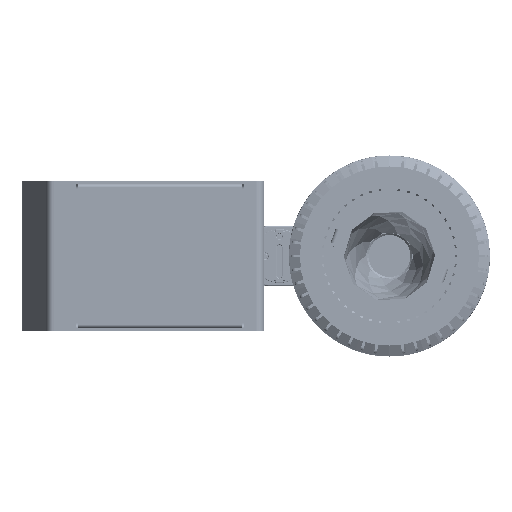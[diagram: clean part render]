
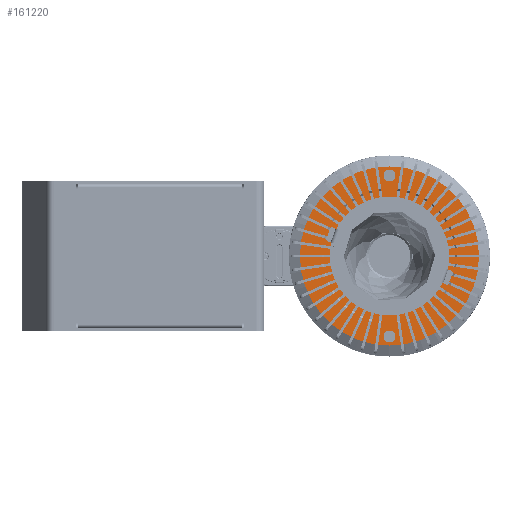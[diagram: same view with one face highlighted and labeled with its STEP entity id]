
A CAD part, front view. The second image highlights one B-rep face of the part: STEP entity #161220.
In plain terms, the highlighted planar face has unit normal (0, -1, 0).
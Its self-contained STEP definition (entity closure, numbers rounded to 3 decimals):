
#1532 = DIRECTION ( 'NONE',  ( 1., 0., 0. ) ) ;
#2708 = CARTESIAN_POINT ( 'NONE',  ( 49., 0., 0. ) ) ;
#4450 = AXIS2_PLACEMENT_3D ( 'NONE', #175571, #8229, #152961 ) ;
#5252 = VERTEX_POINT ( 'NONE', #167706 ) ;
#8229 = DIRECTION ( 'NONE',  ( 0., -1., 0. ) ) ;
#12070 = CARTESIAN_POINT ( 'NONE',  ( -12.887, 0., -31.01 ) ) ;
#12120 = EDGE_CURVE ( 'NONE', #155494, #32071, #144242, .T. ) ;
#13002 = CARTESIAN_POINT ( 'NONE',  ( 44., 0., -3.25 ) ) ;
#13122 = CARTESIAN_POINT ( 'NONE',  ( -44., 0., 0. ) ) ;
#13358 = ORIENTED_EDGE ( 'NONE', *, *, #227150, .T. ) ;
#14416 = CARTESIAN_POINT ( 'NONE',  ( -11.287, 0., -31.01 ) ) ;
#14668 = CARTESIAN_POINT ( 'NONE',  ( -44., 0., 0. ) ) ;
#16281 = EDGE_CURVE ( 'NONE', #140374, #145262, #18763, .T. ) ;
#18763 = CIRCLE ( 'NONE', #190466, 1.6 ) ;
#20504 = ORIENTED_EDGE ( 'NONE', *, *, #116956, .T. ) ;
#20635 = FACE_OUTER_BOUND ( 'NONE', #227642, .T. ) ;
#22896 = DIRECTION ( 'NONE',  ( 1., 0., 0. ) ) ;
#23021 = DIRECTION ( 'NONE',  ( 0., -1., 0. ) ) ;
#23210 = EDGE_LOOP ( 'NONE', ( #102506, #117965 ) ) ;
#29758 = EDGE_CURVE ( 'NONE', #190166, #177890, #153819, .T. ) ;
#32071 = VERTEX_POINT ( 'NONE', #116632 ) ;
#32688 = EDGE_LOOP ( 'NONE', ( #45274, #149301 ) ) ;
#34199 = FACE_BOUND ( 'NONE', #32688, .T. ) ;
#34359 = CIRCLE ( 'NONE', #95372, 1.6 ) ;
#35413 = FACE_BOUND ( 'NONE', #95053, .T. ) ;
#39825 = CARTESIAN_POINT ( 'NONE',  ( 0., 0., 0. ) ) ;
#39918 = CARTESIAN_POINT ( 'NONE',  ( 12.887, 0., 31.01 ) ) ;
#41060 = EDGE_LOOP ( 'NONE', ( #217286, #216143 ) ) ;
#41419 = CARTESIAN_POINT ( 'NONE',  ( 44., 0., 0. ) ) ;
#45274 = ORIENTED_EDGE ( 'NONE', *, *, #211310, .T. ) ;
#50508 = CARTESIAN_POINT ( 'NONE',  ( -9.687, 0., -31.01 ) ) ;
#53884 = AXIS2_PLACEMENT_3D ( 'NONE', #167585, #204665, #94641 ) ;
#55181 = CARTESIAN_POINT ( 'NONE',  ( 44., 0., 3.25 ) ) ;
#61531 = DIRECTION ( 'NONE',  ( 0., 1., 0. ) ) ;
#62513 = ORIENTED_EDGE ( 'NONE', *, *, #104482, .F. ) ;
#67383 = DIRECTION ( 'NONE',  ( 0., 0., 1. ) ) ;
#69385 = CARTESIAN_POINT ( 'NONE',  ( 29., 0., 0. ) ) ;
#69493 = DIRECTION ( 'NONE',  ( 0., -1., 0. ) ) ;
#69904 = EDGE_LOOP ( 'NONE', ( #62513, #119902 ) ) ;
#70133 = ORIENTED_EDGE ( 'NONE', *, *, #151404, .T. ) ;
#70220 = CIRCLE ( 'NONE', #77809, 3.25 ) ;
#75519 = DIRECTION ( 'NONE',  ( 0., -1., 0. ) ) ;
#77809 = AXIS2_PLACEMENT_3D ( 'NONE', #120029, #61531, #157136 ) ;
#80681 = CIRCLE ( 'NONE', #164721, 3.25 ) ;
#80760 = DIRECTION ( 'NONE',  ( 0., 1., 0. ) ) ;
#81281 = VERTEX_POINT ( 'NONE', #13002 ) ;
#81465 = AXIS2_PLACEMENT_3D ( 'NONE', #2708, #221534, #89157 ) ;
#82356 = AXIS2_PLACEMENT_3D ( 'NONE', #142921, #103426, #124916 ) ;
#86120 = DIRECTION ( 'NONE',  ( 0., 0., 1. ) ) ;
#89157 = DIRECTION ( 'NONE',  ( 1., 0., 0. ) ) ;
#94641 = DIRECTION ( 'NONE',  ( 1., 0., 0. ) ) ;
#94861 = DIRECTION ( 'NONE',  ( 1., 0., 0. ) ) ;
#95053 = EDGE_LOOP ( 'NONE', ( #232311, #13358 ) ) ;
#95372 = AXIS2_PLACEMENT_3D ( 'NONE', #14416, #69493, #142440 ) ;
#97197 = DIRECTION ( 'NONE',  ( 0., -1., 0. ) ) ;
#102506 = ORIENTED_EDGE ( 'NONE', *, *, #195522, .F. ) ;
#102556 = EDGE_CURVE ( 'NONE', #169526, #192815, #34359, .T. ) ;
#103426 = DIRECTION ( 'NONE',  ( 0., -1., 0. ) ) ;
#104482 = EDGE_CURVE ( 'NONE', #177890, #190166, #214804, .T. ) ;
#116632 = CARTESIAN_POINT ( 'NONE',  ( -44., 0., -3.25 ) ) ;
#116956 = EDGE_CURVE ( 'NONE', #202541, #5252, #191826, .T. ) ;
#117042 = AXIS2_PLACEMENT_3D ( 'NONE', #41419, #80760, #154940 ) ;
#117346 = AXIS2_PLACEMENT_3D ( 'NONE', #13122, #214101, #86120 ) ;
#117965 = ORIENTED_EDGE ( 'NONE', *, *, #16281, .F. ) ;
#119902 = ORIENTED_EDGE ( 'NONE', *, *, #29758, .F. ) ;
#120029 = CARTESIAN_POINT ( 'NONE',  ( 44., 0., 0. ) ) ;
#124916 = DIRECTION ( 'NONE',  ( 1., 0., 0. ) ) ;
#131017 = AXIS2_PLACEMENT_3D ( 'NONE', #168979, #97197, #94861 ) ;
#134545 = AXIS2_PLACEMENT_3D ( 'NONE', #150848, #75519, #22896 ) ;
#140374 = VERTEX_POINT ( 'NONE', #39918 ) ;
#142440 = DIRECTION ( 'NONE',  ( 1., 0., 0. ) ) ;
#142921 = CARTESIAN_POINT ( 'NONE',  ( 11.287, 0., 31.01 ) ) ;
#144242 = CIRCLE ( 'NONE', #117346, 3.25 ) ;
#145262 = VERTEX_POINT ( 'NONE', #177600 ) ;
#149301 = ORIENTED_EDGE ( 'NONE', *, *, #12120, .T. ) ;
#150848 = CARTESIAN_POINT ( 'NONE',  ( 0., 0., 0. ) ) ;
#151404 = EDGE_CURVE ( 'NONE', #5252, #202541, #179947, .T. ) ;
#152961 = DIRECTION ( 'NONE',  ( 1., 0., 0. ) ) ;
#153819 = CIRCLE ( 'NONE', #131017, 29. ) ;
#154312 = VERTEX_POINT ( 'NONE', #55181 ) ;
#154940 = DIRECTION ( 'NONE',  ( 0., 0., 1. ) ) ;
#155494 = VERTEX_POINT ( 'NONE', #204132 ) ;
#157136 = DIRECTION ( 'NONE',  ( 0., 0., 1. ) ) ;
#161220 = ADVANCED_FACE ( 'NONE', ( #199161, #222710, #35413, #20635, #216037, #34199 ), #223897, .T. ) ;
#164721 = AXIS2_PLACEMENT_3D ( 'NONE', #14668, #192911, #67383 ) ;
#167585 = CARTESIAN_POINT ( 'NONE',  ( 0., 0., 0. ) ) ;
#167706 = CARTESIAN_POINT ( 'NONE',  ( -49., 0., 0. ) ) ;
#168942 = DIRECTION ( 'NONE',  ( 0., -1., 0. ) ) ;
#168979 = CARTESIAN_POINT ( 'NONE',  ( 0., 0., 0. ) ) ;
#169526 = VERTEX_POINT ( 'NONE', #12070 ) ;
#170101 = DIRECTION ( 'NONE',  ( 1., 0., 0. ) ) ;
#171245 = CARTESIAN_POINT ( 'NONE',  ( 11.287, 0., 31.01 ) ) ;
#175571 = CARTESIAN_POINT ( 'NONE',  ( -11.287, 0., -31.01 ) ) ;
#177600 = CARTESIAN_POINT ( 'NONE',  ( 9.687, 0., 31.01 ) ) ;
#177890 = VERTEX_POINT ( 'NONE', #181887 ) ;
#179947 = CIRCLE ( 'NONE', #53884, 49. ) ;
#181887 = CARTESIAN_POINT ( 'NONE',  ( -29., 0., 0. ) ) ;
#190166 = VERTEX_POINT ( 'NONE', #69385 ) ;
#190466 = AXIS2_PLACEMENT_3D ( 'NONE', #171245, #168942, #170101 ) ;
#191826 = CIRCLE ( 'NONE', #210982, 49. ) ;
#192815 = VERTEX_POINT ( 'NONE', #50508 ) ;
#192911 = DIRECTION ( 'NONE',  ( 0., 1., 0. ) ) ;
#193002 = CIRCLE ( 'NONE', #82356, 1.6 ) ;
#195522 = EDGE_CURVE ( 'NONE', #145262, #140374, #193002, .T. ) ;
#199161 = FACE_BOUND ( 'NONE', #23210, .T. ) ;
#202541 = VERTEX_POINT ( 'NONE', #226912 ) ;
#204132 = CARTESIAN_POINT ( 'NONE',  ( -44., 0., 3.25 ) ) ;
#204665 = DIRECTION ( 'NONE',  ( 0., -1., 0. ) ) ;
#210084 = EDGE_CURVE ( 'NONE', #192815, #169526, #233630, .T. ) ;
#210982 = AXIS2_PLACEMENT_3D ( 'NONE', #39825, #23021, #1532 ) ;
#211310 = EDGE_CURVE ( 'NONE', #32071, #155494, #80681, .T. ) ;
#214101 = DIRECTION ( 'NONE',  ( 0., 1., 0. ) ) ;
#214804 = CIRCLE ( 'NONE', #134545, 29. ) ;
#216037 = FACE_BOUND ( 'NONE', #69904, .T. ) ;
#216143 = ORIENTED_EDGE ( 'NONE', *, *, #210084, .F. ) ;
#216361 = CIRCLE ( 'NONE', #117042, 3.25 ) ;
#217286 = ORIENTED_EDGE ( 'NONE', *, *, #102556, .F. ) ;
#221534 = DIRECTION ( 'NONE',  ( 0., -1., 0. ) ) ;
#222710 = FACE_BOUND ( 'NONE', #41060, .T. ) ;
#223897 = PLANE ( 'NONE',  #81465 ) ;
#224130 = EDGE_CURVE ( 'NONE', #81281, #154312, #70220, .T. ) ;
#226912 = CARTESIAN_POINT ( 'NONE',  ( 49., 0., 0. ) ) ;
#227150 = EDGE_CURVE ( 'NONE', #154312, #81281, #216361, .T. ) ;
#227642 = EDGE_LOOP ( 'NONE', ( #70133, #20504 ) ) ;
#232311 = ORIENTED_EDGE ( 'NONE', *, *, #224130, .T. ) ;
#233630 = CIRCLE ( 'NONE', #4450, 1.6 ) ;
